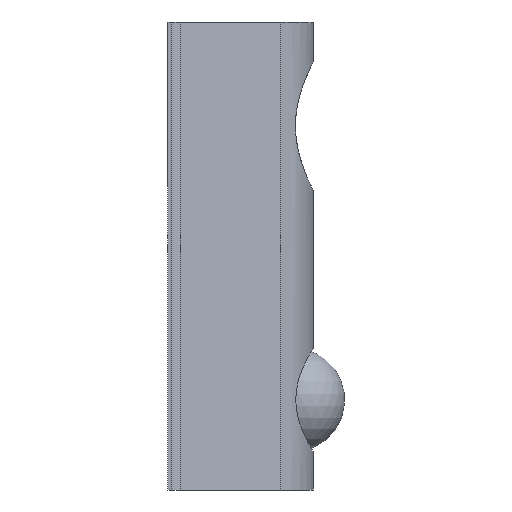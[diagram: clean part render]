
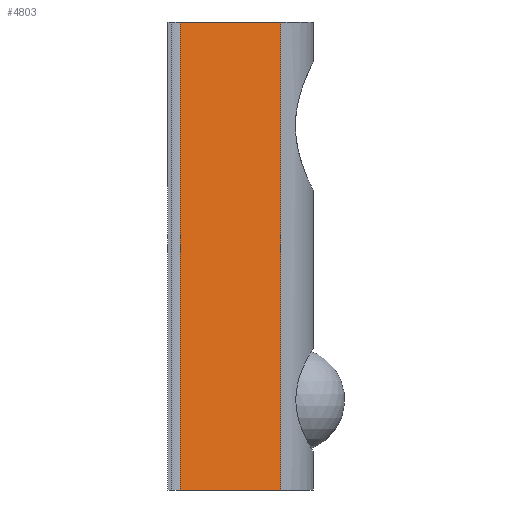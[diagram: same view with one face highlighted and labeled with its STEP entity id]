
A CAD part, left-side view. The second image highlights one B-rep face of the part: STEP entity #4803.
In plain terms, the highlighted planar face has unit normal (-0.815, -0.58, 0).
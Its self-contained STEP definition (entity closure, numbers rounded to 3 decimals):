
#1334 = CYLINDRICAL_SURFACE('',#1335,2.495);
#1335 = AXIS2_PLACEMENT_3D('',#1336,#1337,#1338);
#1336 = CARTESIAN_POINT('',(0.,-1.705,0.));
#1337 = DIRECTION('',(0.,0.,1.));
#1338 = DIRECTION('',(-0.815,-0.579,0.));
#3536 = CYLINDRICAL_SURFACE('',#3537,0.5);
#3537 = AXIS2_PLACEMENT_3D('',#3538,#3539,#3540);
#3538 = CARTESIAN_POINT('',(-3.6,-0.081,0.));
#3539 = DIRECTION('',(0.,0.,1.));
#3540 = DIRECTION('',(-1.,0.,0.));
#3561 = VERTEX_POINT('',#3562);
#3562 = CARTESIAN_POINT('',(-4.007,-0.371,-6.75));
#3577 = PLANE('',#3578);
#3578 = AXIS2_PLACEMENT_3D('',#3579,#3580,#3581);
#3579 = CARTESIAN_POINT('',(-0.003,-1.358,-6.75));
#3580 = DIRECTION('',(0.,0.,1.));
#3581 = DIRECTION('',(1.,0.,-0.));
#3593 = EDGE_CURVE('',#3561,#3594,#3596,.T.);
#3594 = VERTEX_POINT('',#3595);
#3595 = CARTESIAN_POINT('',(-4.007,-0.371,6.75));
#3596 = SURFACE_CURVE('',#3597,(#3601,#3608),.PCURVE_S1.);
#3597 = LINE('',#3598,#3599);
#3598 = CARTESIAN_POINT('',(-4.007,-0.371,0.));
#3599 = VECTOR('',#3600,1.);
#3600 = DIRECTION('',(0.,0.,1.));
#3601 = PCURVE('',#3536,#3602);
#3602 = DEFINITIONAL_REPRESENTATION('',(#3603),#3607);
#3603 = LINE('',#3604,#3605);
#3604 = CARTESIAN_POINT('',(0.619,0.));
#3605 = VECTOR('',#3606,1.);
#3606 = DIRECTION('',(0.,1.));
#3607 = ( GEOMETRIC_REPRESENTATION_CONTEXT(2) 
PARAMETRIC_REPRESENTATION_CONTEXT() REPRESENTATION_CONTEXT('2D SPACE',''
  ) );
#3608 = PCURVE('',#3609,#3614);
#3609 = PLANE('',#3610);
#3610 = AXIS2_PLACEMENT_3D('',#3611,#3612,#3613);
#3611 = CARTESIAN_POINT('',(-4.007,-0.371,0.));
#3612 = DIRECTION('',(-0.815,-0.58,0.));
#3613 = DIRECTION('',(0.58,-0.815,0.));
#3614 = DEFINITIONAL_REPRESENTATION('',(#3615),#3619);
#3615 = LINE('',#3616,#3617);
#3616 = CARTESIAN_POINT('',(0.,0.));
#3617 = VECTOR('',#3618,1.);
#3618 = DIRECTION('',(0.,1.));
#3619 = ( GEOMETRIC_REPRESENTATION_CONTEXT(2) 
PARAMETRIC_REPRESENTATION_CONTEXT() REPRESENTATION_CONTEXT('2D SPACE',''
  ) );
#3636 = PLANE('',#3637);
#3637 = AXIS2_PLACEMENT_3D('',#3638,#3639,#3640);
#3638 = CARTESIAN_POINT('',(-0.003,-1.358,6.75));
#3639 = DIRECTION('',(0.,0.,1.));
#3640 = DIRECTION('',(1.,0.,-0.));
#4385 = EDGE_CURVE('',#4386,#4388,#4390,.T.);
#4386 = VERTEX_POINT('',#4387);
#4387 = CARTESIAN_POINT('',(-1.95,-3.262,-6.75));
#4388 = VERTEX_POINT('',#4389);
#4389 = CARTESIAN_POINT('',(-1.95,-3.262,6.75));
#4390 = SURFACE_CURVE('',#4391,(#4395,#4402),.PCURVE_S1.);
#4391 = LINE('',#4392,#4393);
#4392 = CARTESIAN_POINT('',(-1.95,-3.262,0.));
#4393 = VECTOR('',#4394,1.);
#4394 = DIRECTION('',(0.,0.,1.));
#4395 = PCURVE('',#1334,#4396);
#4396 = DEFINITIONAL_REPRESENTATION('',(#4397),#4401);
#4397 = LINE('',#4398,#4399);
#4398 = CARTESIAN_POINT('',(0.056,0.));
#4399 = VECTOR('',#4400,1.);
#4400 = DIRECTION('',(0.,1.));
#4401 = ( GEOMETRIC_REPRESENTATION_CONTEXT(2) 
PARAMETRIC_REPRESENTATION_CONTEXT() REPRESENTATION_CONTEXT('2D SPACE',''
  ) );
#4402 = PCURVE('',#3609,#4403);
#4403 = DEFINITIONAL_REPRESENTATION('',(#4404),#4408);
#4404 = LINE('',#4405,#4406);
#4405 = CARTESIAN_POINT('',(3.548,0.));
#4406 = VECTOR('',#4407,1.);
#4407 = DIRECTION('',(0.,1.));
#4408 = ( GEOMETRIC_REPRESENTATION_CONTEXT(2) 
PARAMETRIC_REPRESENTATION_CONTEXT() REPRESENTATION_CONTEXT('2D SPACE',''
  ) );
#4602 = EDGE_CURVE('',#4386,#3561,#4603,.T.);
#4603 = SURFACE_CURVE('',#4604,(#4608,#4615),.PCURVE_S1.);
#4604 = LINE('',#4605,#4606);
#4605 = CARTESIAN_POINT('',(-4.007,-0.371,-6.75));
#4606 = VECTOR('',#4607,1.);
#4607 = DIRECTION('',(-0.58,0.815,0.));
#4608 = PCURVE('',#3577,#4609);
#4609 = DEFINITIONAL_REPRESENTATION('',(#4610),#4614);
#4610 = LINE('',#4611,#4612);
#4611 = CARTESIAN_POINT('',(-4.004,0.987));
#4612 = VECTOR('',#4613,1.);
#4613 = DIRECTION('',(-0.58,0.815));
#4614 = ( GEOMETRIC_REPRESENTATION_CONTEXT(2) 
PARAMETRIC_REPRESENTATION_CONTEXT() REPRESENTATION_CONTEXT('2D SPACE',''
  ) );
#4615 = PCURVE('',#3609,#4616);
#4616 = DEFINITIONAL_REPRESENTATION('',(#4617),#4621);
#4617 = LINE('',#4618,#4619);
#4618 = CARTESIAN_POINT('',(0.,-6.75));
#4619 = VECTOR('',#4620,1.);
#4620 = DIRECTION('',(-1.,0.));
#4621 = ( GEOMETRIC_REPRESENTATION_CONTEXT(2) 
PARAMETRIC_REPRESENTATION_CONTEXT() REPRESENTATION_CONTEXT('2D SPACE',''
  ) );
#4735 = EDGE_CURVE('',#3594,#4388,#4736,.T.);
#4736 = SURFACE_CURVE('',#4737,(#4741,#4748),.PCURVE_S1.);
#4737 = LINE('',#4738,#4739);
#4738 = CARTESIAN_POINT('',(-4.007,-0.371,6.75));
#4739 = VECTOR('',#4740,1.);
#4740 = DIRECTION('',(0.58,-0.815,0.));
#4741 = PCURVE('',#3636,#4742);
#4742 = DEFINITIONAL_REPRESENTATION('',(#4743),#4747);
#4743 = LINE('',#4744,#4745);
#4744 = CARTESIAN_POINT('',(-4.004,0.987));
#4745 = VECTOR('',#4746,1.);
#4746 = DIRECTION('',(0.58,-0.815));
#4747 = ( GEOMETRIC_REPRESENTATION_CONTEXT(2) 
PARAMETRIC_REPRESENTATION_CONTEXT() REPRESENTATION_CONTEXT('2D SPACE',''
  ) );
#4748 = PCURVE('',#3609,#4749);
#4749 = DEFINITIONAL_REPRESENTATION('',(#4750),#4754);
#4750 = LINE('',#4751,#4752);
#4751 = CARTESIAN_POINT('',(0.,6.75));
#4752 = VECTOR('',#4753,1.);
#4753 = DIRECTION('',(1.,0.));
#4754 = ( GEOMETRIC_REPRESENTATION_CONTEXT(2) 
PARAMETRIC_REPRESENTATION_CONTEXT() REPRESENTATION_CONTEXT('2D SPACE',''
  ) );
#4803 = ADVANCED_FACE('',(#4804),#3609,.T.);
#4804 = FACE_BOUND('',#4805,.T.);
#4805 = EDGE_LOOP('',(#4806,#4807,#4808,#4809));
#4806 = ORIENTED_EDGE('',*,*,#3593,.F.);
#4807 = ORIENTED_EDGE('',*,*,#4602,.F.);
#4808 = ORIENTED_EDGE('',*,*,#4385,.T.);
#4809 = ORIENTED_EDGE('',*,*,#4735,.F.);
